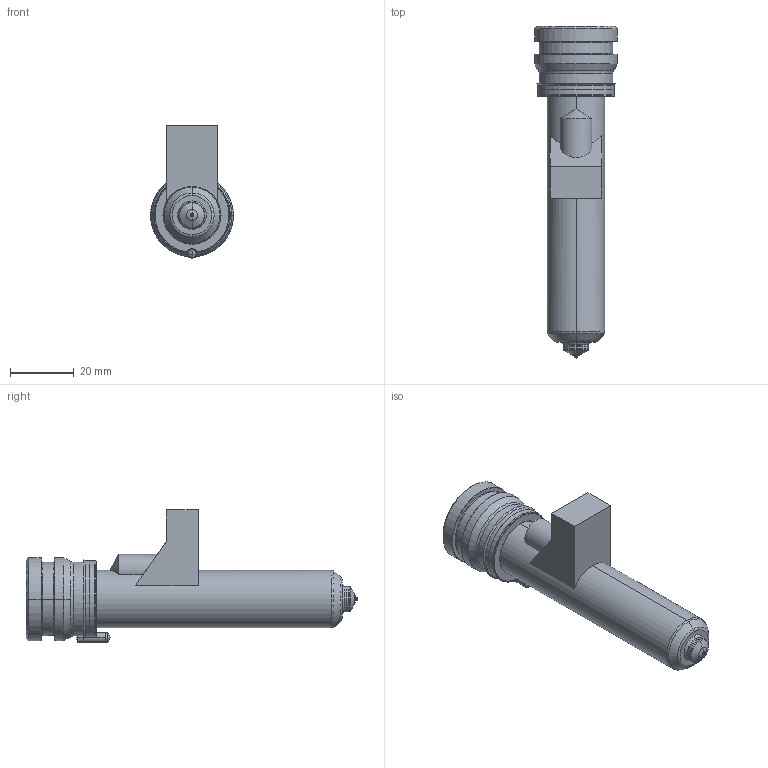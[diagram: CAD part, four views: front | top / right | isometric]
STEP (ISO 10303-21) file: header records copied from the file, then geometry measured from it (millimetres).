
FILE_DESCRIPTION((''),'2;1');
FILE_NAME('MPN-08-24-VSA8-086-M','2026-02-05T13:34:10',('UPTIO'),('Thermoplay S.p.A.'),'CREO PARAMETRIC BY PTC INC, 2023494','CREO PARAMETRIC BY PTC INC, 2023494','');
FILE_SCHEMA(('CONFIG_CONTROL_DESIGN','SHAPE_APPEARANCE_LAYERS_GROUPS'));
Length unit declared in the file: millimetre
Products named in the file (1): MPN-08-24-VSA8-086-M
Bounding box: 26 x 104 x 41.5 mm (x, y, z)
Volume: 21118.9 mm3; surface area: 27424.3 mm2
Topology: 2 solids, 3 shells, 527 faces, 1374 edges, 846 vertices
Faces by surface type: cylinder 176, plane 143, bspline 75, torus 60, cone 58, sphere 9, extrusion 6
Entity records: 27719 total; most frequent: CARTESIAN_POINT 12240, ORIENTED_EDGE 2730, DIRECTION 2497, EDGE_CURVE 1365, AXIS2_PLACEMENT_3D 975, VERTEX_POINT 846, EDGE_LOOP 557, VECTOR 547
